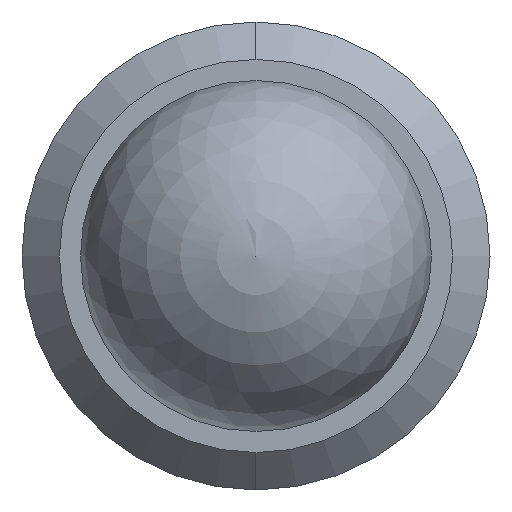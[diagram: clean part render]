
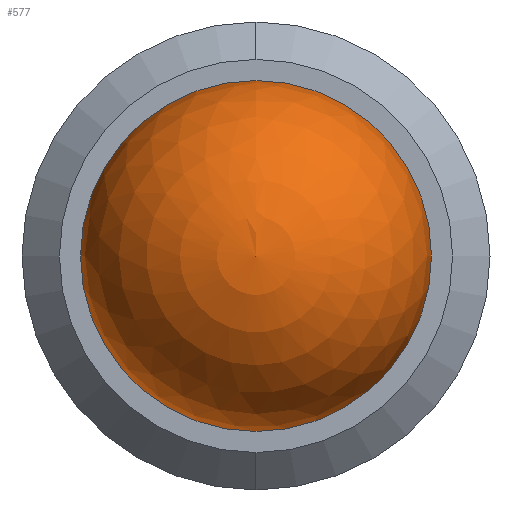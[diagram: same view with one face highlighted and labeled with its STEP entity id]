
A CAD part, left-side view. The second image highlights one B-rep face of the part: STEP entity #577.
In plain terms, the highlighted spherical face has radius 2.381 mm.
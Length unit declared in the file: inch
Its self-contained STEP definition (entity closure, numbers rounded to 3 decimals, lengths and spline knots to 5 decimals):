
#1 = DIRECTION ( 'NONE',  ( -1., 0., 0. ) ) ;
#14 = DIRECTION ( 'NONE',  ( 1., 0., 0. ) ) ;
#20 = AXIS2_PLACEMENT_3D ( 'NONE', #227, #14, #444 ) ;
#30 = DIRECTION ( 'NONE',  ( 0., 0., 1. ) ) ;
#34 = AXIS2_PLACEMENT_3D ( 'NONE', #137, #1, #594 ) ;
#54 = CIRCLE ( 'NONE', #254, 0.09375 ) ;
#128 = EDGE_LOOP ( 'NONE', ( #188, #423 ) ) ;
#131 = EDGE_CURVE ( 'NONE', #182, #159, #482, .T. ) ;
#137 = CARTESIAN_POINT ( 'NONE',  ( 0., 0., 0. ) ) ;
#159 = VERTEX_POINT ( 'NONE', #369 ) ;
#182 = VERTEX_POINT ( 'NONE', #528 ) ;
#188 = ORIENTED_EDGE ( 'NONE', *, *, #131, .F. ) ;
#227 = CARTESIAN_POINT ( 'NONE',  ( 0., 0., 0. ) ) ;
#254 = AXIS2_PLACEMENT_3D ( 'NONE', #613, #308, #30 ) ;
#308 = DIRECTION ( 'NONE',  ( -1., 0., 0. ) ) ;
#369 = CARTESIAN_POINT ( 'NONE',  ( 0., -0.09375, 0. ) ) ;
#414 = EDGE_CURVE ( 'NONE', #182, #159, #54, .T. ) ;
#415 = SPHERICAL_SURFACE ( 'NONE', #34, 0.09375 ) ;
#423 = ORIENTED_EDGE ( 'NONE', *, *, #414, .T. ) ;
#444 = DIRECTION ( 'NONE',  ( 0., 0., -1. ) ) ;
#479 = FACE_OUTER_BOUND ( 'NONE', #128, .T. ) ;
#482 = CIRCLE ( 'NONE', #20, 0.09375 ) ;
#528 = CARTESIAN_POINT ( 'NONE',  ( 0., 0.09375, 0. ) ) ;
#577 = ADVANCED_FACE ( 'NONE', ( #479 ), #415, .T. ) ;
#594 = DIRECTION ( 'NONE',  ( 0., 0., 1. ) ) ;
#613 = CARTESIAN_POINT ( 'NONE',  ( 0., 0., 0. ) ) ;
